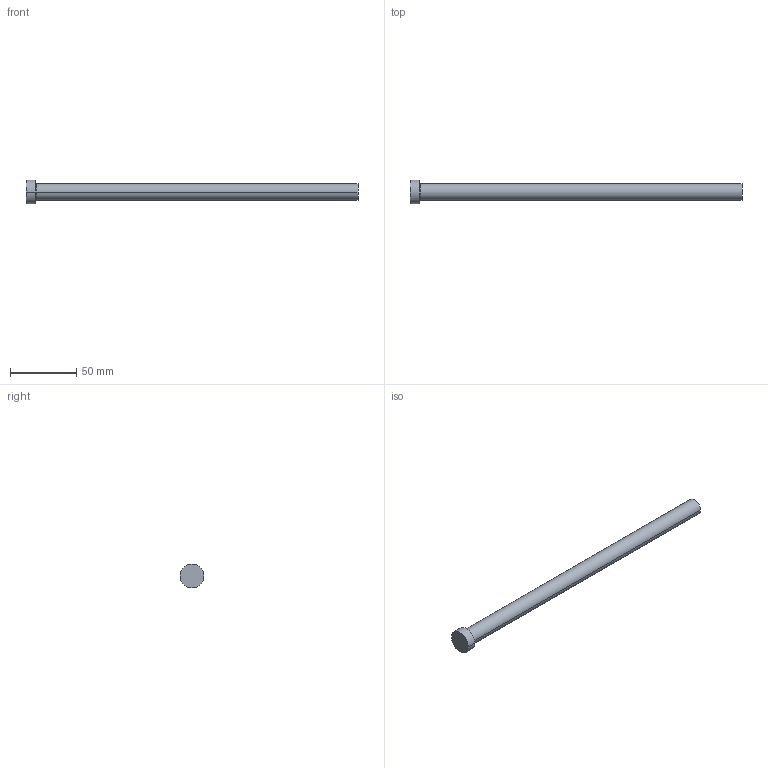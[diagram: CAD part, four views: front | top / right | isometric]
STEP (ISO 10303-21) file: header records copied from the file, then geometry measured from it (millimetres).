
FILE_DESCRIPTION (( 'STEP AP214' ), '1' );
FILE_NAME ('A-12,5x250.STEP', '2020-05-29T16:10:13', ( 'August' ), ( '' ), 'SwSTEP 2.0', 'SolidWorks 2018', '' );
FILE_SCHEMA (( 'AUTOMOTIVE_DESIGN' ));
Length unit declared in the file: millimetre
Products named in the file (1): A-12,5x250
Bounding box: 250 x 18 x 18 mm (x, y, z)
Volume: 31607.4 mm3; surface area: 10434.2 mm2
Topology: 1 solids, 1 shells, 9 faces, 16 edges, 10 vertices
Faces by surface type: cylinder 4, plane 3, torus 2
Entity records: 260 total; most frequent: DIRECTION 48, CARTESIAN_POINT 36, ORIENTED_EDGE 32, AXIS2_PLACEMENT_3D 22, EDGE_CURVE 16, CIRCLE 12, EDGE_LOOP 10, VERTEX_POINT 10
